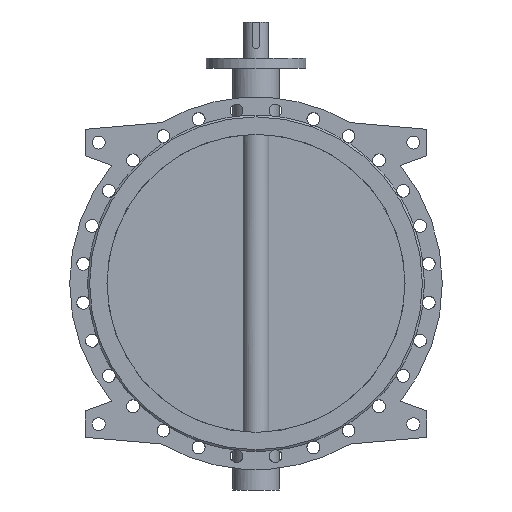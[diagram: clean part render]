
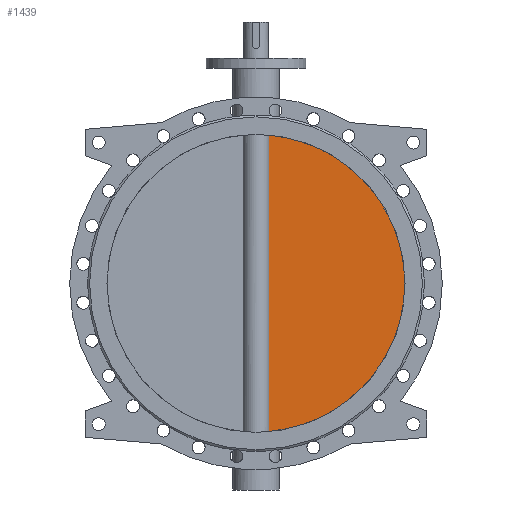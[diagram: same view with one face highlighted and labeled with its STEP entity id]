
A CAD part, front view. The second image highlights one B-rep face of the part: STEP entity #1439.
In plain terms, the highlighted planar face has unit normal (0, -1, 0).
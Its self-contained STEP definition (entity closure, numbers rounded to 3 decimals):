
#1439=ADVANCED_FACE('',(#2927),#2929,.T.);
#2927=FACE_BOUND('',#2928,.T.);
#2928=EDGE_LOOP('',(#4019,#4020));
#2929=PLANE('',#2930);
#2930=AXIS2_PLACEMENT_3D('',#2931,#2932,#2933);
#2931=CARTESIAN_POINT('',(0.,-10.,0.));
#2932=DIRECTION('',(0.,-1.,0.));
#2933=DIRECTION('',(1.,0.,0.));
#4019=ORIENTED_EDGE('',*,*,#4557,.T.);
#4020=ORIENTED_EDGE('',*,*,#4567,.T.);
#4557=EDGE_CURVE('',#5491,#5492,#5493,.F.);
#4567=EDGE_CURVE('',#5492,#5491,#5511,.T.);
#5491=VERTEX_POINT('',#12660);
#5492=VERTEX_POINT('',#12661);
#5493=CIRCLE('',#12662,450.);
#5511=LINE('',#13018,#13019);
#12660=CARTESIAN_POINT('',(38.73,-10.,-448.33));
#12661=CARTESIAN_POINT('',(38.73,-10.,448.33));
#12662=AXIS2_PLACEMENT_3D('',#12663,#12664,#12665);
#12663=CARTESIAN_POINT('',(0.,-10.,0.));
#12664=DIRECTION('',(0.,1.,0.));
#12665=DIRECTION('',(0.086,0.,0.996));
#13018=CARTESIAN_POINT('',(38.73,-10.,448.33));
#13019=VECTOR('',#13020,1.);
#13020=DIRECTION('',(0.,0.,-1.));
